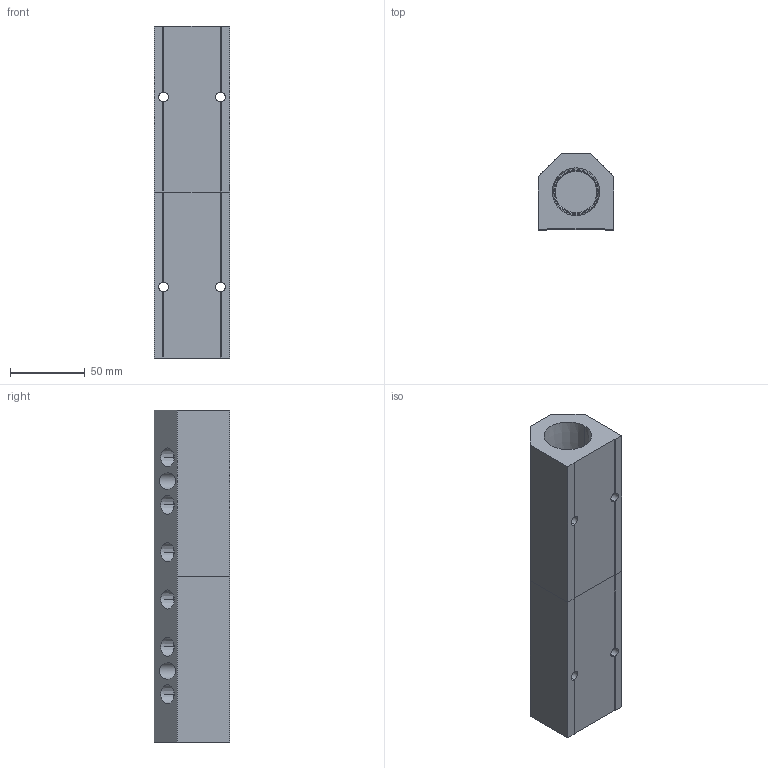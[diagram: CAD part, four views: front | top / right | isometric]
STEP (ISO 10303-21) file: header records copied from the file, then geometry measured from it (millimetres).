
FILE_DESCRIPTION (( 'STEP AP214' ), '1' );
FILE_NAME ('ALM6BCD-N4N16-222RB.STEP', '2023-11-02T06:12:59', ( '' ), ( '' ), 'SwSTEP 2.0', 'SolidWorks 2020', '' );
FILE_SCHEMA (( 'AUTOMOTIVE_DESIGN' ));
Length unit declared in the file: millimetre
Products named in the file (1): ALM6BCD-N4N16-222RB
Bounding box: 50.8 x 50.8 x 222 mm (x, y, z)
Volume: 340493.7 mm3; surface area: 77523.5 mm2
Topology: 2 solids, 2 shells, 383 faces, 1004 edges, 664 vertices
Faces by surface type: plane 239, bspline 76, cone 44, cylinder 24
Entity records: 21630 total; most frequent: CARTESIAN_POINT 9056, ORIENTED_EDGE 2008, DIRECTION 1500, EDGE_CURVE 1004, LINE 716, VECTOR 716, VERTEX_POINT 664, EDGE_LOOP 466
